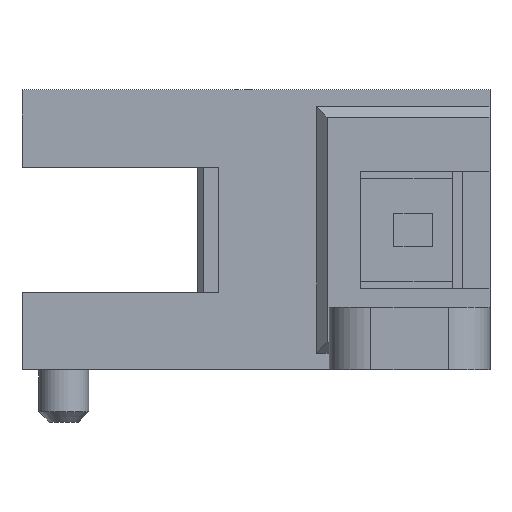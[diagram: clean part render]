
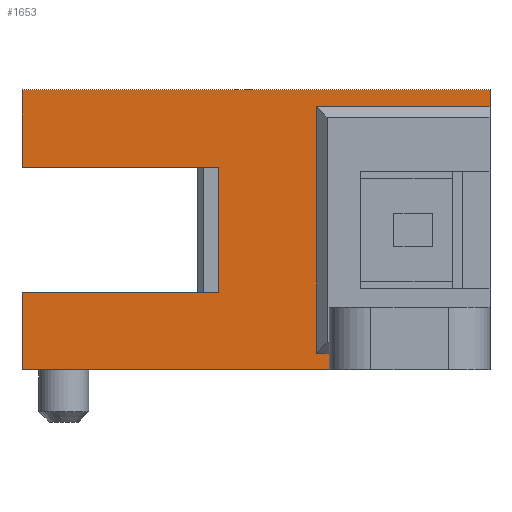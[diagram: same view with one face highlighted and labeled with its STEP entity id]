
A CAD part, left-side view. The second image highlights one B-rep face of the part: STEP entity #1653.
In plain terms, the highlighted planar face has unit normal (-1, 0, 0).
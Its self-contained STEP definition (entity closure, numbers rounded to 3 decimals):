
#97 = VERTEX_POINT ( 'NONE', #287 ) ;
#98 = VERTEX_POINT ( 'NONE', #288 ) ;
#99 = VERTEX_POINT ( 'NONE', #289 ) ;
#100 = VERTEX_POINT ( 'NONE', #290 ) ;
#111 = VERTEX_POINT ( 'NONE', #301 ) ;
#113 = VERTEX_POINT ( 'NONE', #303 ) ;
#115 = VERTEX_POINT ( 'NONE', #305 ) ;
#116 = VERTEX_POINT ( 'NONE', #306 ) ;
#117 = VERTEX_POINT ( 'NONE', #307 ) ;
#118 = VERTEX_POINT ( 'NONE', #308 ) ;
#140 = VERTEX_POINT ( 'NONE', #330 ) ;
#141 = VERTEX_POINT ( 'NONE', #331 ) ;
#287 = CARTESIAN_POINT ( 'NONE',  ( -3., 2., 6. ) ) ;
#288 = CARTESIAN_POINT ( 'NONE',  ( -3., -7.4, 6. ) ) ;
#289 = CARTESIAN_POINT ( 'NONE',  ( -3., -7.4, 0. ) ) ;
#290 = CARTESIAN_POINT ( 'NONE',  ( -3., 2., 0. ) ) ;
#301 = CARTESIAN_POINT ( 'NONE',  ( -3., 2., 9.7 ) ) ;
#303 = CARTESIAN_POINT ( 'NONE',  ( -3., -20.4, 9.7 ) ) ;
#305 = CARTESIAN_POINT ( 'NONE',  ( -3., -20.4, 8.9 ) ) ;
#306 = CARTESIAN_POINT ( 'NONE',  ( -3., -12.1, 8.9 ) ) ;
#307 = CARTESIAN_POINT ( 'NONE',  ( -3., -12.1, -2.9 ) ) ;
#308 = CARTESIAN_POINT ( 'NONE',  ( -3., -12.7, -2.9 ) ) ;
#330 = CARTESIAN_POINT ( 'NONE',  ( -3., -12.7, -3.7 ) ) ;
#331 = CARTESIAN_POINT ( 'NONE',  ( -3., 2., -3.7 ) ) ;
#420 = CARTESIAN_POINT ( 'NONE',  ( -3., -12.7, -0.7 ) ) ;
#421 = DIRECTION ( 'NONE',  ( 0., 0., -1. ) ) ;
#426 = CARTESIAN_POINT ( 'NONE',  ( -3., -12.1, -2.9 ) ) ;
#428 = CARTESIAN_POINT ( 'NONE',  ( -3., -12.1, 8.9 ) ) ;
#429 = DIRECTION ( 'NONE',  ( 0., -1., 0. ) ) ;
#430 = CARTESIAN_POINT ( 'NONE',  ( -3., -12.1, 8.9 ) ) ;
#431 = DIRECTION ( 'NONE',  ( 0., 0., 1. ) ) ;
#432 = CARTESIAN_POINT ( 'NONE',  ( -3., -20.4, -3.7 ) ) ;
#433 = DIRECTION ( 'NONE',  ( 0., -1., 0. ) ) ;
#434 = CARTESIAN_POINT ( 'NONE',  ( -3., -20.4, 9.7 ) ) ;
#435 = DIRECTION ( 'NONE',  ( 0., -1., 0. ) ) ;
#436 = CARTESIAN_POINT ( 'NONE',  ( -3., 2., 6. ) ) ;
#437 = DIRECTION ( 'NONE',  ( 0., 0., -1. ) ) ;
#438 = CARTESIAN_POINT ( 'NONE',  ( -3., 2., 9.7 ) ) ;
#439 = DIRECTION ( 'NONE',  ( 0., 1., 0. ) ) ;
#441 = DIRECTION ( 'NONE',  ( 0., 0., 1. ) ) ;
#445 = CARTESIAN_POINT ( 'NONE',  ( -3., 2., 0. ) ) ;
#448 = DIRECTION ( 'NONE',  ( 0., 0., 1. ) ) ;
#464 = CARTESIAN_POINT ( 'NONE',  ( -3., 2., -3.7 ) ) ;
#465 = DIRECTION ( 'NONE',  ( 0., 1., 0. ) ) ;
#498 = CARTESIAN_POINT ( 'NONE',  ( -3., -6.4, 0. ) ) ;
#499 = DIRECTION ( 'NONE',  ( 0., -1., 0. ) ) ;
#512 = CARTESIAN_POINT ( 'NONE',  ( -3., -7.4, 6. ) ) ;
#515 = DIRECTION ( 'NONE',  ( 0., 0., -1. ) ) ;
#676 = CARTESIAN_POINT ( 'NONE',  ( -3., -6.4, 0. ) ) ;
#681 = PLANE ( 'NONE',  #2658 ) ;
#686 = DIRECTION ( 'NONE',  ( 1., 0., 0. ) ) ;
#687 = DIRECTION ( 'NONE',  ( 0., 0., -1. ) ) ;
#1206 = EDGE_CURVE ( 'NONE', #118, #140, #2198, .T. ) ;
#1210 = EDGE_CURVE ( 'NONE', #117, #118, #2201, .T. ) ;
#1211 = EDGE_CURVE ( 'NONE', #117, #116, #2203, .T. ) ;
#1212 = EDGE_CURVE ( 'NONE', #116, #115, #2205, .T. ) ;
#1213 = EDGE_CURVE ( 'NONE', #111, #113, #2212, .T. ) ;
#1214 = EDGE_CURVE ( 'NONE', #113, #115, #2207, .T. ) ;
#1215 = EDGE_CURVE ( 'NONE', #98, #97, #2209, .T. ) ;
#1216 = EDGE_CURVE ( 'NONE', #97, #111, #2211, .T. ) ;
#1219 = EDGE_CURVE ( 'NONE', #141, #100, #2220, .T. ) ;
#1227 = EDGE_CURVE ( 'NONE', #140, #141, #2231, .T. ) ;
#1244 = EDGE_CURVE ( 'NONE', #100, #99, #2271, .T. ) ;
#1251 = EDGE_CURVE ( 'NONE', #98, #99, #2250, .T. ) ;
#1340 = EDGE_LOOP ( 'NONE', ( #1594, #1595, #1596, #1597, #1598, #1599, #1600, #1601, #1602, #1603, #1604, #1605 ) ) ;
#1594 = ORIENTED_EDGE ( 'NONE', *, *, #1227, .F. ) ;
#1595 = ORIENTED_EDGE ( 'NONE', *, *, #1206, .F. ) ;
#1596 = ORIENTED_EDGE ( 'NONE', *, *, #1210, .F. ) ;
#1597 = ORIENTED_EDGE ( 'NONE', *, *, #1211, .T. ) ;
#1598 = ORIENTED_EDGE ( 'NONE', *, *, #1212, .T. ) ;
#1599 = ORIENTED_EDGE ( 'NONE', *, *, #1214, .F. ) ;
#1600 = ORIENTED_EDGE ( 'NONE', *, *, #1213, .F. ) ;
#1601 = ORIENTED_EDGE ( 'NONE', *, *, #1216, .F. ) ;
#1602 = ORIENTED_EDGE ( 'NONE', *, *, #1215, .F. ) ;
#1603 = ORIENTED_EDGE ( 'NONE', *, *, #1251, .T. ) ;
#1604 = ORIENTED_EDGE ( 'NONE', *, *, #1244, .F. ) ;
#1605 = ORIENTED_EDGE ( 'NONE', *, *, #1219, .F. ) ;
#1653 = ADVANCED_FACE ( 'NONE', ( #2366 ), #681, .F. ) ;
#2198 = LINE ( 'NONE', #420, #2199 ) ;
#2199 = VECTOR ( 'NONE', #421, 1000. ) ;
#2201 = LINE ( 'NONE', #426, #2206 ) ;
#2203 = LINE ( 'NONE', #428, #2208 ) ;
#2205 = LINE ( 'NONE', #430, #2210 ) ;
#2206 = VECTOR ( 'NONE', #429, 1000. ) ;
#2207 = LINE ( 'NONE', #432, #2214 ) ;
#2208 = VECTOR ( 'NONE', #431, 1000. ) ;
#2209 = LINE ( 'NONE', #436, #2215 ) ;
#2210 = VECTOR ( 'NONE', #433, 1000. ) ;
#2211 = LINE ( 'NONE', #438, #2217 ) ;
#2212 = LINE ( 'NONE', #434, #2213 ) ;
#2213 = VECTOR ( 'NONE', #435, 1000. ) ;
#2214 = VECTOR ( 'NONE', #437, 1000. ) ;
#2215 = VECTOR ( 'NONE', #439, 1000. ) ;
#2217 = VECTOR ( 'NONE', #441, 1000. ) ;
#2220 = LINE ( 'NONE', #445, #2223 ) ;
#2223 = VECTOR ( 'NONE', #448, 1000. ) ;
#2229 = VECTOR ( 'NONE', #465, 1000. ) ;
#2231 = LINE ( 'NONE', #464, #2229 ) ;
#2250 = LINE ( 'NONE', #512, #2284 ) ;
#2271 = LINE ( 'NONE', #498, #2272 ) ;
#2272 = VECTOR ( 'NONE', #499, 1000. ) ;
#2284 = VECTOR ( 'NONE', #515, 1000. ) ;
#2366 = FACE_OUTER_BOUND ( 'NONE', #1340, .T. ) ;
#2658 = AXIS2_PLACEMENT_3D ( 'NONE', #676, #686, #687 ) ;
